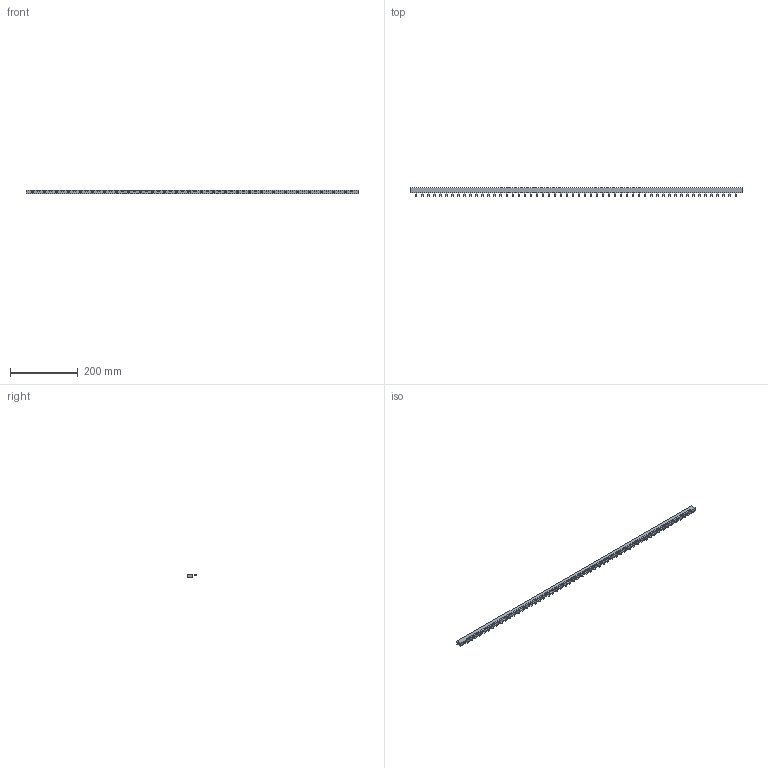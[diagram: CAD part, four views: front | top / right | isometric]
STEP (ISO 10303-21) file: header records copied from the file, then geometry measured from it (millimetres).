
FILE_DESCRIPTION (( 'STEP AP203' ), '1' );
FILE_NAME ('BR2-27.STEP', '2019-05-07T11:29:00', ( 'Usuário do Windows' ), ( 'WEG Equipamentos Elétricos' ), 'SwSTEP 2.0', 'SolidWorks 2018', '' );
FILE_SCHEMA (( 'CONFIG_CONTROL_DESIGN' ));
Length unit declared in the file: millimetre
Products named in the file (2): BR2-27
Bounding box: 980.6 x 26.5 x 10.3 mm (x, y, z)
Volume: 158019.6 mm3; surface area: 72197.4 mm2
Topology: 3 solids, 3 shells, 994 faces, 2532 edges, 1544 vertices
Faces by surface type: plane 778, cylinder 216
Entity records: 29471 total; most frequent: CARTESIAN_POINT 5072, DIRECTION 5064, ORIENTED_EDGE 5064, EDGE_CURVE 2532, VECTOR 1992, LINE 1992, VERTEX_POINT 1544, AXIS2_PLACEMENT_3D 1536
